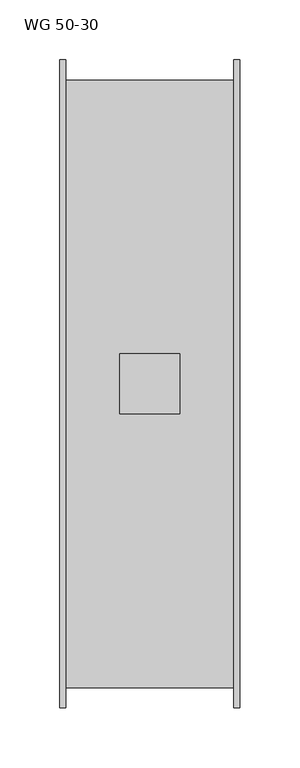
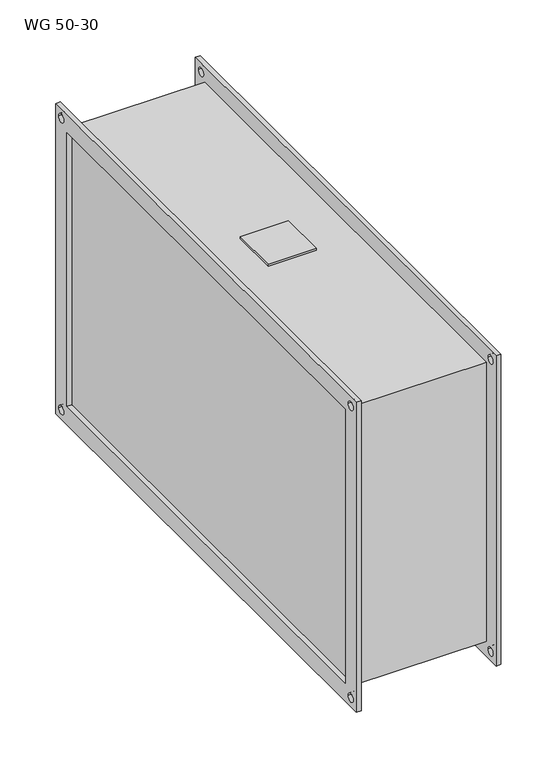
"""IFC4 building model written with IfcOpenShell, lengths in millimetres: damper geometry, KORF_Вставка_Гибкая_WG : WG 50-30."""

from ifc_helpers import new_model, si_unit, point, frame, frame_2d, origin, place, context, project, spatial, polyline, circle_curve, trimmed, segment, composite_curve, outline, extrude, source, transform, mapped, element, save


def wg_50_30_a35d14c7(model_context):
    return source(origin(), model_context, "Body", "SweptSolid", [
        extrude(outline(polyline([(50.0, -25.0), (50.0, 25.0), (100.0, 25.0), (100.0, -25.0), (50.0, -25.0)])), frame((0.0, 0.0, 153.0), z_axis=(0.0, 0.0, 1.0), x_axis=(1.0, 0.0, 0.0)), (0.0, 0.0, 1.0), 2.0),
        extrude(outline(polyline([(-270.0, 170.0), (270.0, 170.0), (270.0, -170.0), (-270.0, -170.0), (-270.0, 170.0)]), holes=[polyline([(-250.0, 150.0), (-250.0, -150.0), (250.0, -150.0), (250.0, 150.0), (-250.0, 150.0)]), composite_curve([segment(trimmed(circle_curve(frame_2d((260.0, 160.0)), 4.5), [point((255.5, 160.0))], [point((264.5, 160.0))], True, "CARTESIAN"), True, "CONTINUOUS"), segment(trimmed(circle_curve(frame_2d((260.0, 160.0)), 4.5), [point((264.5, 160.0))], [point((255.5, 160.0))], True, "CARTESIAN"), True, "CONTINUOUS")], self_intersect=False), composite_curve([segment(trimmed(circle_curve(frame_2d((-260.0, 160.0)), 4.5), [point((-264.5, 160.0))], [point((-255.5, 160.0))], True, "CARTESIAN"), True, "CONTINUOUS"), segment(trimmed(circle_curve(frame_2d((-260.0, 160.0)), 4.5), [point((-255.5, 160.0))], [point((-264.5, 160.0))], True, "CARTESIAN"), True, "CONTINUOUS")], self_intersect=False), composite_curve([segment(trimmed(circle_curve(frame_2d((-260.0, -160.0)), 4.5), [point((-264.5, -160.0))], [point((-255.5, -160.0))], True, "CARTESIAN"), True, "CONTINUOUS"), segment(trimmed(circle_curve(frame_2d((-260.0, -160.0)), 4.5), [point((-255.5, -160.0))], [point((-264.5, -160.0))], True, "CARTESIAN"), True, "CONTINUOUS")], self_intersect=False), composite_curve([segment(trimmed(circle_curve(frame_2d((260.0, -160.0)), 4.5), [point((255.5, -160.0))], [point((264.5, -160.0))], True, "CARTESIAN"), True, "CONTINUOUS"), segment(trimmed(circle_curve(frame_2d((260.0, -160.0)), 4.5), [point((264.5, -160.0))], [point((255.5, -160.0))], True, "CARTESIAN"), True, "CONTINUOUS")], self_intersect=False)]), frame((145.0, 0.0, 0.0), z_axis=(1.0, 0.0, 0.0), x_axis=(0.0, 1.0, 0.0)), (0.0, 0.0, 1.0), 5.0),
        extrude(outline(polyline([(-270.0, 170.0), (270.0, 170.0), (270.0, -170.0), (-270.0, -170.0), (-270.0, 170.0)]), holes=[polyline([(-250.0, 150.0), (-250.0, -150.0), (250.0, -150.0), (250.0, 150.0), (-250.0, 150.0)]), composite_curve([segment(trimmed(circle_curve(frame_2d((260.0, 160.0)), 4.5), [point((255.5, 160.0))], [point((264.5, 160.0))], True, "CARTESIAN"), True, "CONTINUOUS"), segment(trimmed(circle_curve(frame_2d((260.0, 160.0)), 4.5), [point((264.5, 160.0))], [point((255.5, 160.0))], True, "CARTESIAN"), True, "CONTINUOUS")], self_intersect=False), composite_curve([segment(trimmed(circle_curve(frame_2d((-260.0, 160.0)), 4.5), [point((-264.5, 160.0))], [point((-255.5, 160.0))], True, "CARTESIAN"), True, "CONTINUOUS"), segment(trimmed(circle_curve(frame_2d((-260.0, 160.0)), 4.5), [point((-255.5, 160.0))], [point((-264.5, 160.0))], True, "CARTESIAN"), True, "CONTINUOUS")], self_intersect=False), composite_curve([segment(trimmed(circle_curve(frame_2d((-260.0, -160.0)), 4.5), [point((-264.5, -160.0))], [point((-255.5, -160.0))], True, "CARTESIAN"), True, "CONTINUOUS"), segment(trimmed(circle_curve(frame_2d((-260.0, -160.0)), 4.5), [point((-255.5, -160.0))], [point((-264.5, -160.0))], True, "CARTESIAN"), True, "CONTINUOUS")], self_intersect=False), composite_curve([segment(trimmed(circle_curve(frame_2d((260.0, -160.0)), 4.5), [point((255.5, -160.0))], [point((264.5, -160.0))], True, "CARTESIAN"), True, "CONTINUOUS"), segment(trimmed(circle_curve(frame_2d((260.0, -160.0)), 4.5), [point((264.5, -160.0))], [point((255.5, -160.0))], True, "CARTESIAN"), True, "CONTINUOUS")], self_intersect=False)]), frame((0.0, 0.0, 0.0), z_axis=(1.0, 0.0, 0.0), x_axis=(0.0, 1.0, 0.0)), (0.0, 0.0, 1.0), 5.0),
        extrude(outline(polyline([(145.0, 253.0), (145.0, -253.0), (5.0, -253.0), (5.0, 253.0), (145.0, 253.0)])), frame((0.0, 0.0, -153.0), z_axis=(0.0, 0.0, 1.0), x_axis=(1.0, 0.0, 0.0)), (0.0, 0.0, 1.0), 306.0),
    ])


if __name__ == "__main__":
    model = new_model("IFC4")
    model_context = context("Model", 3, world=origin())
    ifc_project = project(units=[si_unit("LENGTHUNIT", "METRE", prefix="MILLI")], contexts=[model_context])
    site = spatial("IfcSite", under=ifc_project)
    building = spatial("IfcBuilding", under=site)
    placement = place(None, origin())
    wg_50_30_shape = wg_50_30_a35d14c7(model_context)
    element("IfcDamper", 1, ObjectType="KORF_Вставка_Гибкая_WG : WG 50-30", at=placement, inside=building, context=model_context, shape_type="MappedRepresentation", body=[
        mapped(wg_50_30_shape, transform((0.0, 0.0, 0.0), x_axis=(1.0, 0.0, 0.0), y_axis=(0.0, 1.0, 0.0), z_axis=(0.0, 0.0, 1.0))),
    ])
    save(model, "model.ifc")
